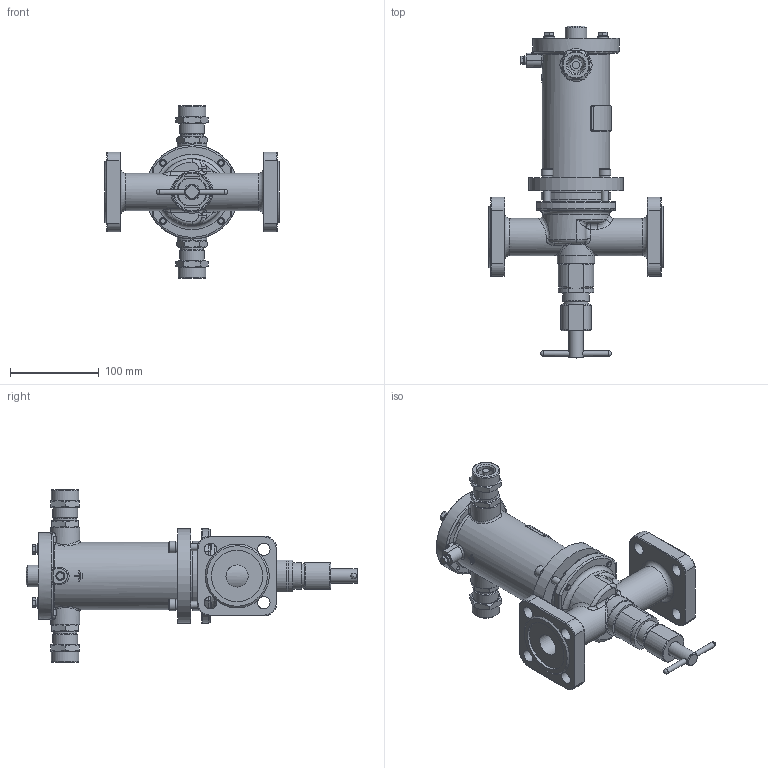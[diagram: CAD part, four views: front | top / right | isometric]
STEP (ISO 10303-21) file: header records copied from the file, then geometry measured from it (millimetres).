
FILE_DESCRIPTION(('STEP AP203'), '1');
FILE_NAME('ÑÅÍÑ-ÏÔ DN25PN25-ÑÂ.stp', '2018-10-09T08:09:32', ('Îðëîâ Å.Â.'), ('ÎÎÎ ÍÏÏ Ñåíñîð'), 'ASCON STEP Converter 1.3', 'Kompas 3D', '');
FILE_SCHEMA(('CONFIG_CONTROL_DESIGN','SUPPORT_RESOURCE_SCHEMA'));
Length unit declared in the file: millimetre
Products named in the file (1): 67
Bounding box: 196 x 373.5 x 194 mm (x, y, z)
Volume: 1025677 mm3; surface area: 286537.1 mm2
Topology: 3 solids, 16 shells, 1972 faces, 5238 edges, 3396 vertices
Faces by surface type: cylinder 1001, plane 719, cone 127, torus 57, bspline 50, extrusion 16, sphere 2
Full cylindrical faces by diameter (mm): 3.3 x1, 3.5 x2, 4.134 x1, 4.917 x4, 5 x1, 6 x14, 6.5 x4, 8 x8, 9 x4, 10 x1, 12 x4, 13 x6, 14 x8, 16 x3, 17 x2, 18 x1, 18.632 x2, 19.9 x1, 20 x3, 22 x2, 22.376 x2, 23 x1, 23.5 x2, 24 x3, 24.5 x2, 25 x2, 26 x4, 26.376 x2, 27.8 x1, 28 x3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
Entity records: 76715 total; most frequent: CARTESIAN_POINT 26614, DIRECTION 10848, ORIENTED_EDGE 10434, EDGE_CURVE 5217, AXIS2_PLACEMENT_3D 4178, VERTEX_POINT 3396, VECTOR 2492, LINE 2476
